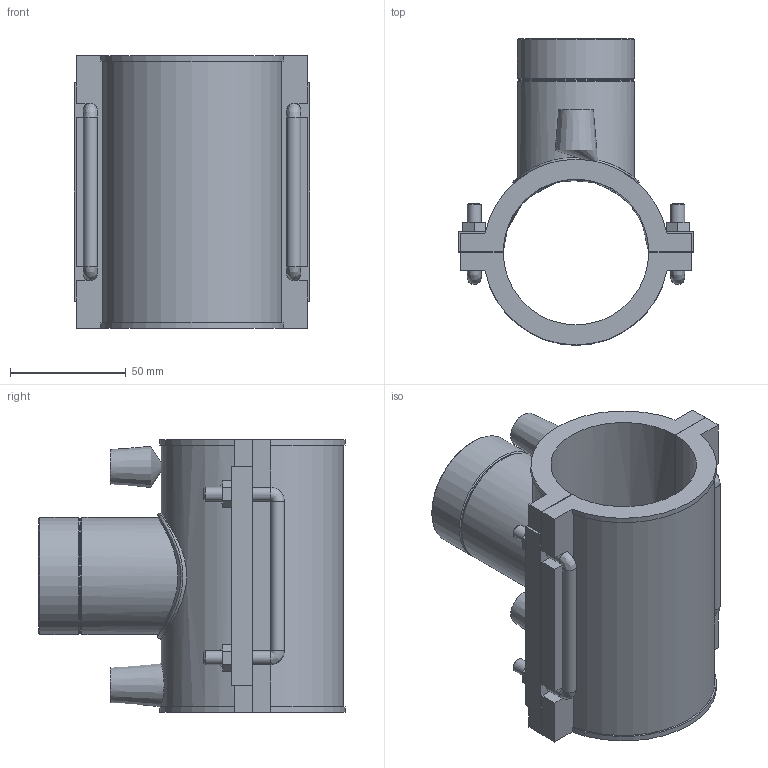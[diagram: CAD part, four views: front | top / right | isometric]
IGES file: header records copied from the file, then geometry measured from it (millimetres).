
Global section: file name: 493804063013.ipt; native system: Autodesk Inventor 2015; preprocessor: unknown; author: KIM; date: 20171106.094059; units: millimetre
Bounding box: 102 x 132.54 x 118 mm (x, y, z)
Volume: 315140.2 mm3; surface area: 94023.1 mm2
Topology: 2 solids, 2 shells, 138 faces, 348 edges, 218 vertices
Faces by surface type: plane 86, cylinder 24, revolution 10, cone 9, bspline 9
Full cylindrical faces by diameter (mm): 4 x2, 6 x10, 49.638 x1, 50.638 x2, 54.533 x1
